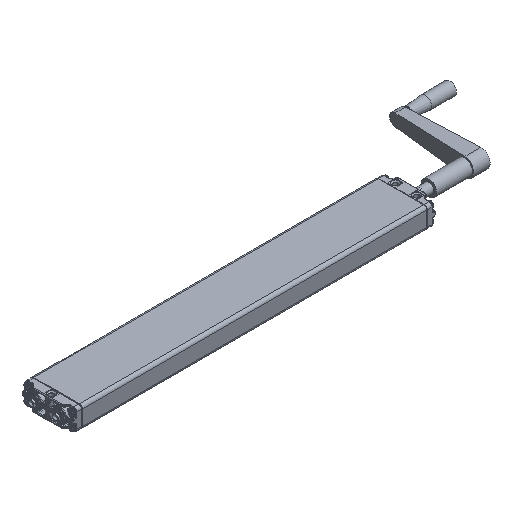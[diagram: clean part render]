
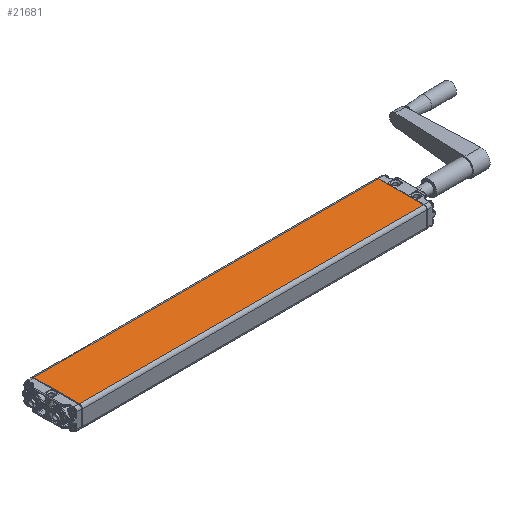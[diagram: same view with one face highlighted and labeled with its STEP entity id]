
A CAD part, isometric view. The second image highlights one B-rep face of the part: STEP entity #21681.
In plain terms, the highlighted planar face has unit normal (0, 0, 1).
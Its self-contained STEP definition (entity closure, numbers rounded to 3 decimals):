
#2630=LINE('',#52467,#3539);
#2631=LINE('',#52470,#3540);
#2632=LINE('',#52472,#3541);
#2633=LINE('',#52474,#3542);
#3539=VECTOR('',#27576,1000.);
#3540=VECTOR('',#27577,1000.);
#3541=VECTOR('',#27578,1000.);
#3542=VECTOR('',#27579,1000.);
#7993=ORIENTED_EDGE('',*,*,#12159,.T.);
#7994=ORIENTED_EDGE('',*,*,#12160,.T.);
#7995=ORIENTED_EDGE('',*,*,#12161,.T.);
#7996=ORIENTED_EDGE('',*,*,#12162,.T.);
#12159=EDGE_CURVE('',#14467,#14468,#2630,.T.);
#12160=EDGE_CURVE('',#14468,#14469,#2631,.F.);
#12161=EDGE_CURVE('',#14469,#14470,#2632,.F.);
#12162=EDGE_CURVE('',#14470,#14467,#2633,.T.);
#14467=VERTEX_POINT('',#52468);
#14468=VERTEX_POINT('',#52469);
#14469=VERTEX_POINT('',#52471);
#14470=VERTEX_POINT('',#52473);
#17024=EDGE_LOOP('',(#7993,#7994,#7995,#7996));
#18611=FACE_BOUND('',#17024,.T.);
#19466=PLANE('',#23555);
#21681=ADVANCED_FACE('',(#18611),#19466,.T.);
#23555=AXIS2_PLACEMENT_3D('',#52466,#27574,#27575);
#27574=DIRECTION('',(0.,0.,1.));
#27575=DIRECTION('',(1.,0.,0.));
#27576=DIRECTION('',(0.,-1.,0.));
#27577=DIRECTION('',(-1.,0.,0.));
#27578=DIRECTION('',(0.,-1.,0.));
#27579=DIRECTION('',(-1.,0.,0.));
#52466=CARTESIAN_POINT('',(42.5,570.5,17.5));
#52467=CARTESIAN_POINT('',(-37.5,570.5,17.5));
#52468=CARTESIAN_POINT('',(-37.5,570.,17.5));
#52469=CARTESIAN_POINT('',(-37.5,0.5,17.5));
#52470=CARTESIAN_POINT('',(37.5,0.5,17.5));
#52471=CARTESIAN_POINT('',(37.5,0.5,17.5));
#52472=CARTESIAN_POINT('',(37.5,570.5,17.5));
#52473=CARTESIAN_POINT('',(37.5,570.,17.5));
#52474=CARTESIAN_POINT('',(42.5,570.,17.5));
